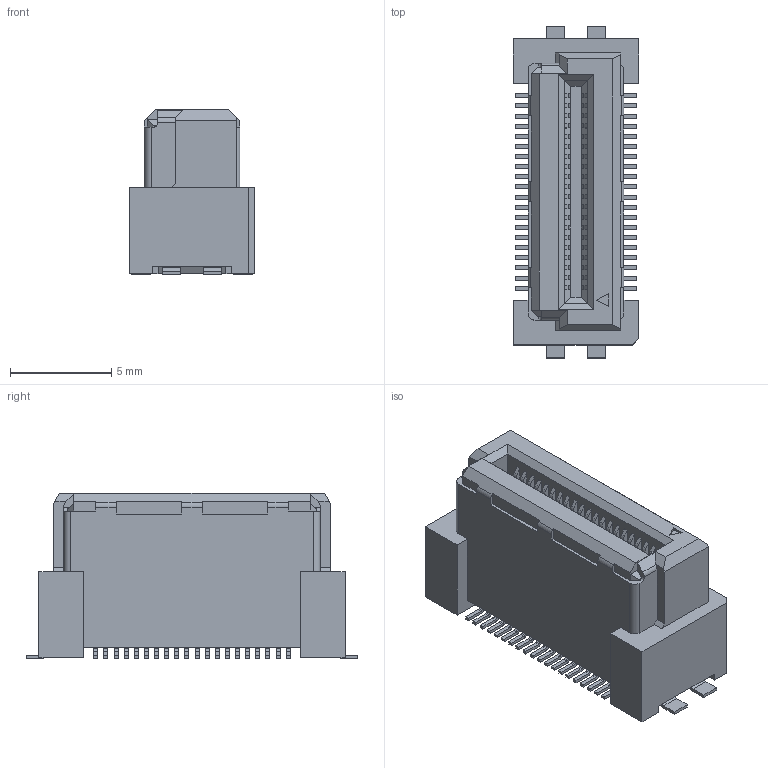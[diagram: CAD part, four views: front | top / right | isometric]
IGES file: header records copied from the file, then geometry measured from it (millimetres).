
Start section: Elysium IGES Interface
Global section: file name: 73HC:\Users\1390\Desktop\作業用\Web用3DCAD\提出用\P3D582_DT10S-040S-10-T.igs; native system: Creo Elements/Direct Modeling 20.6  25-Mar-2023; preprocessor: Creo Element/Direct IGES_3D V2.2; author: Unknown; organization: Unknown; date: 20250507.161141; units: millimetre
Bounding box: 6.2 x 16.4 x 8.18 mm (x, y, z)
Volume: 497.7 mm3; surface area: 626.6 mm2
Topology: 1 solids, 1 shells, 874 faces, 2348 edges, 1562 vertices
Faces by surface type: bspline 874
